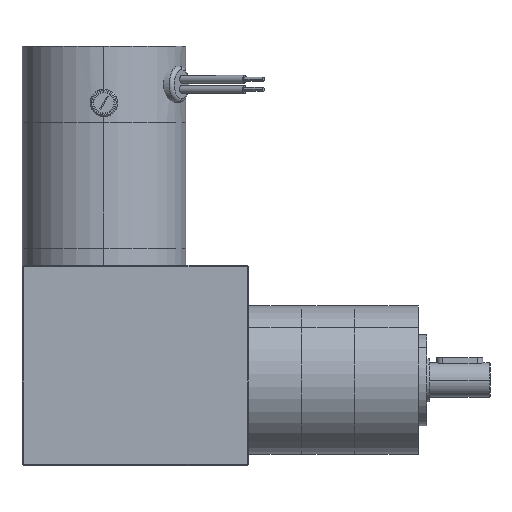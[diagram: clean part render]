
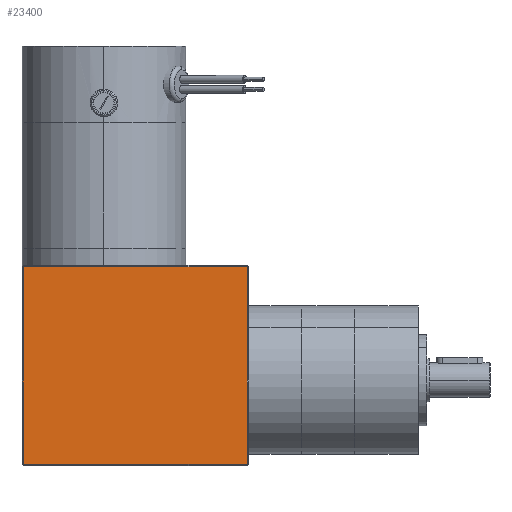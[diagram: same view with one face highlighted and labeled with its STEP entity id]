
A CAD part, top view. The second image highlights one B-rep face of the part: STEP entity #23400.
In plain terms, the highlighted planar face has unit normal (0, 0, 1).
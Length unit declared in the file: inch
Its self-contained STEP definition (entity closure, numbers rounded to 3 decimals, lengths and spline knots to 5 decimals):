
#230 = CARTESIAN_POINT ( 'NONE',  ( 4.62872, 3.47643, 4.88687 ) ) ;
#771 = LINE ( 'NONE', #230, #19130 ) ;
#2387 = VECTOR ( 'NONE', #8217, 39.37008 ) ;
#2689 = LINE ( 'NONE', #16170, #2387 ) ;
#3920 = CARTESIAN_POINT ( 'NONE',  ( 6.18522, 2.12143, 4.88687 ) ) ;
#4114 = DIRECTION ( 'NONE',  ( 0., 1., 0. ) ) ;
#4311 = VERTEX_POINT ( 'NONE', #18027 ) ;
#4707 = ORIENTED_EDGE ( 'NONE', *, *, #11811, .T. ) ;
#5181 = VERTEX_POINT ( 'NONE', #17899 ) ;
#5330 = EDGE_LOOP ( 'NONE', ( #10327, #4707, #8912, #7667 ) ) ;
#6009 = LINE ( 'NONE', #17971, #7850 ) ;
#6883 = EDGE_CURVE ( 'NONE', #5181, #15531, #2689, .T. ) ;
#7667 = ORIENTED_EDGE ( 'NONE', *, *, #25012, .T. ) ;
#7850 = VECTOR ( 'NONE', #4114, 39.37008 ) ;
#8082 = PLANE ( 'NONE',  #20795 ) ;
#8217 = DIRECTION ( 'NONE',  ( 1., 0., 0. ) ) ;
#8912 = ORIENTED_EDGE ( 'NONE', *, *, #20886, .T. ) ;
#10327 = ORIENTED_EDGE ( 'NONE', *, *, #6883, .T. ) ;
#11811 = EDGE_CURVE ( 'NONE', #15531, #4311, #6009, .T. ) ;
#14121 = DIRECTION ( 'NONE',  ( -1., 0., 0. ) ) ;
#14184 = DIRECTION ( 'NONE',  ( 1., 0., 0. ) ) ;
#14345 = CARTESIAN_POINT ( 'NONE',  ( 4.64872, 0.74643, 4.88687 ) ) ;
#15531 = VERTEX_POINT ( 'NONE', #19986 ) ;
#16170 = CARTESIAN_POINT ( 'NONE',  ( 7.74172, 0.76643, 4.88687 ) ) ;
#17899 = CARTESIAN_POINT ( 'NONE',  ( 4.64872, 0.76643, 4.88687 ) ) ;
#17971 = CARTESIAN_POINT ( 'NONE',  ( 7.72172, 3.49643, 4.88687 ) ) ;
#18027 = CARTESIAN_POINT ( 'NONE',  ( 7.72172, 3.47643, 4.88687 ) ) ;
#19130 = VECTOR ( 'NONE', #14121, 39.37008 ) ;
#19614 = CARTESIAN_POINT ( 'NONE',  ( 4.64872, 3.47643, 4.88687 ) ) ;
#19735 = VERTEX_POINT ( 'NONE', #19614 ) ;
#19986 = CARTESIAN_POINT ( 'NONE',  ( 7.72172, 0.76643, 4.88687 ) ) ;
#20795 = AXIS2_PLACEMENT_3D ( 'NONE', #3920, #22152, #14184 ) ;
#20886 = EDGE_CURVE ( 'NONE', #4311, #19735, #771, .T. ) ;
#20892 = FACE_OUTER_BOUND ( 'NONE', #5330, .T. ) ;
#22152 = DIRECTION ( 'NONE',  ( 0., 0., 1. ) ) ;
#22465 = DIRECTION ( 'NONE',  ( 0., -1., 0. ) ) ;
#23320 = LINE ( 'NONE', #14345, #24877 ) ;
#23400 = ADVANCED_FACE ( 'NONE', ( #20892 ), #8082, .T. ) ;
#24877 = VECTOR ( 'NONE', #22465, 39.37008 ) ;
#25012 = EDGE_CURVE ( 'NONE', #19735, #5181, #23320, .T. ) ;
